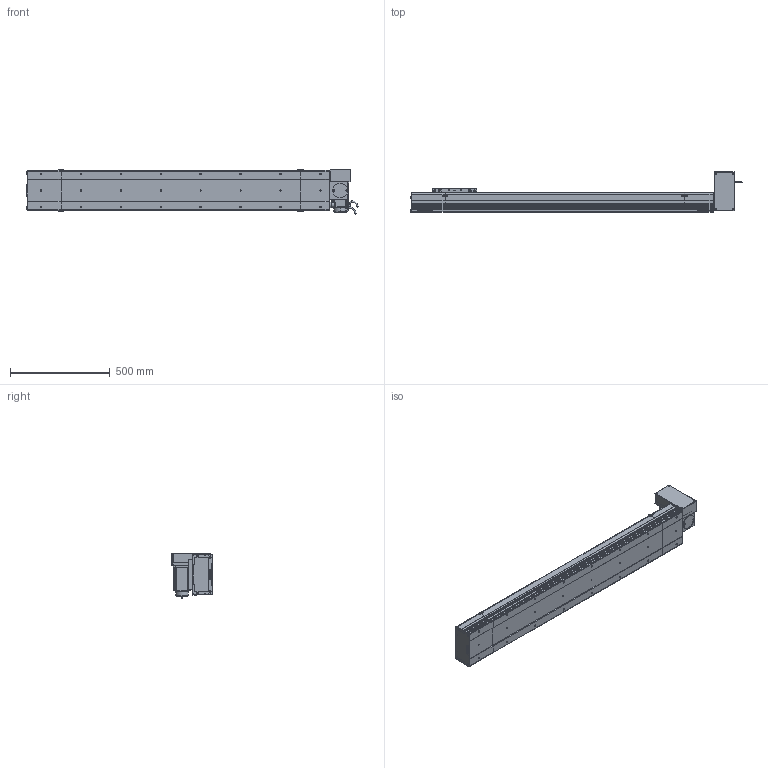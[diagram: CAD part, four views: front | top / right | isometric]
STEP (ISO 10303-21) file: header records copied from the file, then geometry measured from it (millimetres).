
FILE_DESCRIPTION (( 'STEP AP214' ), '1' );
FILE_NAME ('D20 CBH LT S1200.STEP', '2010-06-30T08:57:29', ( 'Conseil Régional Haute-Normandie' ), ( 'Conseil Régional Haute-Normandie' ), 'SwSTEP 2.0', 'SolidWorks 2010', '' );
FILE_SCHEMA (( 'AUTOMOTIVE_DESIGN' ));
Length unit declared in the file: millimetre
Products named in the file (31): Glissiere_Default; Chariot D20_Default; vis M5 L15_Default; Support Chariot D20_Default; Plaque De Serrage D20_Default; Plaque de Bout Tail D20_Default; Couvercle_Default; Couvercle LT_Default; Corp Tail D20 LT_Default; Head LT_Default; Support moteur LT_Default; Rondelle Cache D20 LT_Default; Plaque De Serrage D20 LT_Default; Plaque de Bout Head D20 LT_Default; avant 90BLDC125A-640; Moteur motionking 90BLDC125A-640; Conecteur_Default; Conecteur2_Default; codeur 90BLDC125-640; corps 90BLDC125A-640; vis M5 L30_Default; ecrou_Default; Cache Support Moteur LT_Default; Corp S1200_Default; Corp D20 S1200_Default; vis M5 L47_Default; Corp Tail D20_Default; Tail D20_Default; Couvercle S1200_Default; D20 CBH LT S1200
Assembly tree (66 placements, depth 4):
  D20 CBH LT S1200
    Corp D20 S1200_Default
      Couvercle S1200_Default
      Corp S1200_Default
    Chariot D20_Default
      vis M5 L15_Default  x8
      Glissiere_Default
      Chariot D20_Default
      Support Chariot D20_Default
    Tail D20_Default
      vis M5 L15_Default  x6
      Plaque De Serrage D20_Default
      Couvercle_Default
      Corp Tail D20_Default
      Plaque de Bout Tail D20_Default
    Head LT_Default
      Corp Tail D20 LT_Default
      vis M5 L15_Default  x12
      Plaque de Bout Head D20 LT_Default
      Rondelle Cache D20 LT_Default  x3
      vis M5 L47_Default  x4
      Plaque De Serrage D20 LT_Default
      Moteur motionking 90BLDC125A-640
        corps 90BLDC125A-640
        Conecteur2_Default
        avant 90BLDC125A-640
        Conecteur_Default
        codeur 90BLDC125-640
      vis M5 L30_Default  x4
      Support moteur LT_Default
      ecrou_Default  x4
      Couvercle LT_Default
      Cache Support Moteur LT_Default
Bounding box: 1663.45 x 202.5 x 229.7 mm (x, y, z)
Volume: 11793523.6 mm3; surface area: 2378015.1 mm2
Topology: 103 solids, 103 shells, 3747 faces, 9404 edges, 6112 vertices
Faces by surface type: plane 2086, bspline 806, cylinder 692, torus 91, cone 68, sphere 4
Entity records: 159910 total; most frequent: CARTESIAN_POINT 83107, ORIENTED_EDGE 15276, DIRECTION 11472, EDGE_CURVE 7638, VERTEX_POINT 5056, LINE 4922, VECTOR 4922, AXIS2_PLACEMENT_3D 3275
